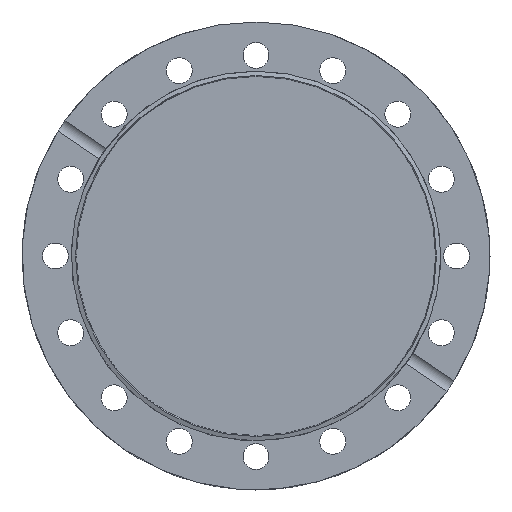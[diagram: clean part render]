
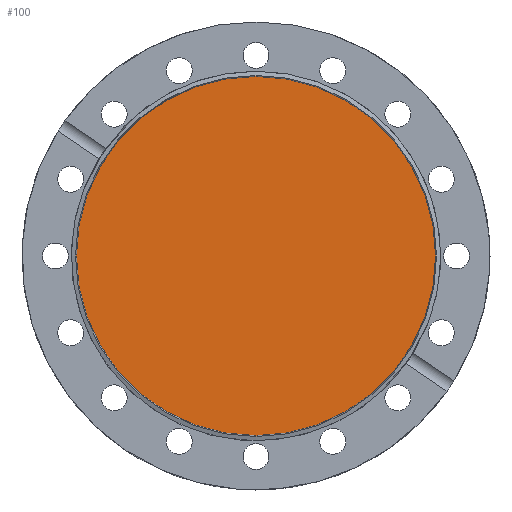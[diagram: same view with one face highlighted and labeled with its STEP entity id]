
A CAD part, left-side view. The second image highlights one B-rep face of the part: STEP entity #100.
In plain terms, the highlighted planar face has unit normal (-1, 0, 0).
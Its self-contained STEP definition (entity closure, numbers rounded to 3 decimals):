
#100 = ADVANCED_FACE( '', ( #246 ), #247, .F. );
#246 = FACE_OUTER_BOUND( '', #383, .T. );
#247 = PLANE( '', #384 );
#383 = EDGE_LOOP( '', ( #582 ) );
#384 = AXIS2_PLACEMENT_3D( '', #583, #584, #585 );
#582 = ORIENTED_EDGE( '', *, *, #642, .T. );
#583 = CARTESIAN_POINT( '', ( -18.6, 0., 58.335 ) );
#584 = DIRECTION( '', ( 1., 0., 0. ) );
#585 = DIRECTION( '', ( 0., 0., -1. ) );
#642 = EDGE_CURVE( '', #757, #757, #758, .T. );
#757 = VERTEX_POINT( '', #913 );
#758 = CIRCLE( '', #914, 58.335 );
#913 = CARTESIAN_POINT( '', ( -18.6, 0., 58.335 ) );
#914 = AXIS2_PLACEMENT_3D( '', #1083, #1084, #1085 );
#1083 = CARTESIAN_POINT( '', ( -18.6, 0., 0. ) );
#1084 = DIRECTION( '', ( -1., 0., 0. ) );
#1085 = DIRECTION( '', ( 0., 0., 1. ) );
